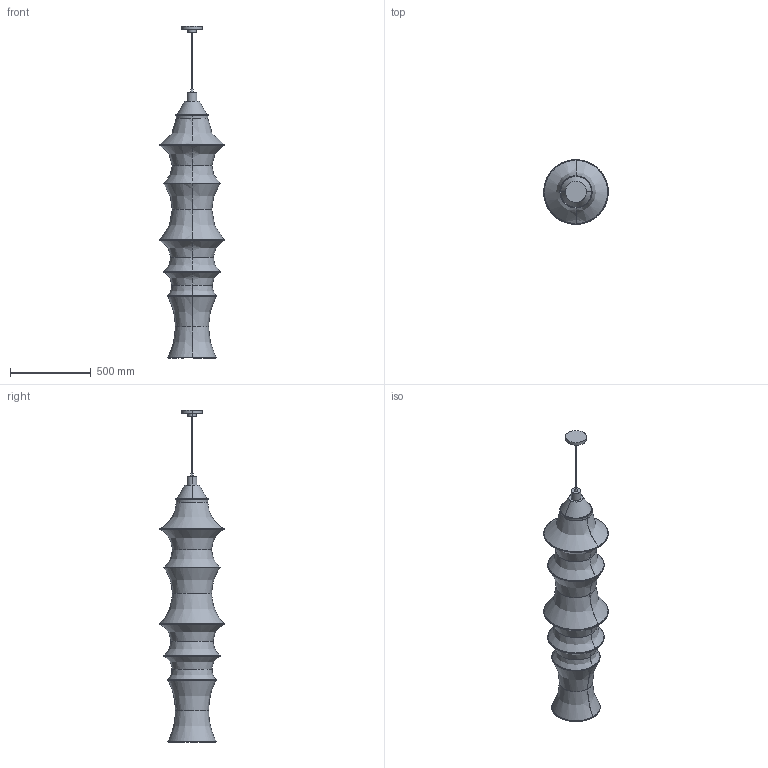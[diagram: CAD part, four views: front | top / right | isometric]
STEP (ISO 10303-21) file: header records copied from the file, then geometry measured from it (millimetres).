
FILE_DESCRIPTION(/* description */ (''),/* implementation_level */ '2;1');
FILE_NAME(/* name */ 'FALKLAND SOSPENSIONE 165',/* time_stamp */ '2017-07-25T16:00:48+02:00',/* author */ (''),/* organization */ (''),/* preprocessor_version */ 'ST-DEVELOPER v10',/* originating_system */ '',/* authorisation */ '');
FILE_SCHEMA (('CONFIG_CONTROL_DESIGN'));
Length unit declared in the file: millimetre
Products named in the file (1): 1
Bounding box: 399.99 x 400 x 2058.06 mm (x, y, z)
Volume: 3599865.6 mm3; surface area: 3127608 mm2
Topology: 12 solids, 36 shells, 139 faces, 374 edges, 235 vertices
Faces by surface type: bspline 128, plane 11
Entity records: 5403 total; most frequent: CARTESIAN_POINT 3616, ORIENTED_EDGE 658, EDGE_CURVE 329, VERTEX_POINT 202, EDGE_LOOP 141, ADVANCED_FACE 139, FACE_OUTER_BOUND 139, MANIFOLD_SOLID_BREP 18
